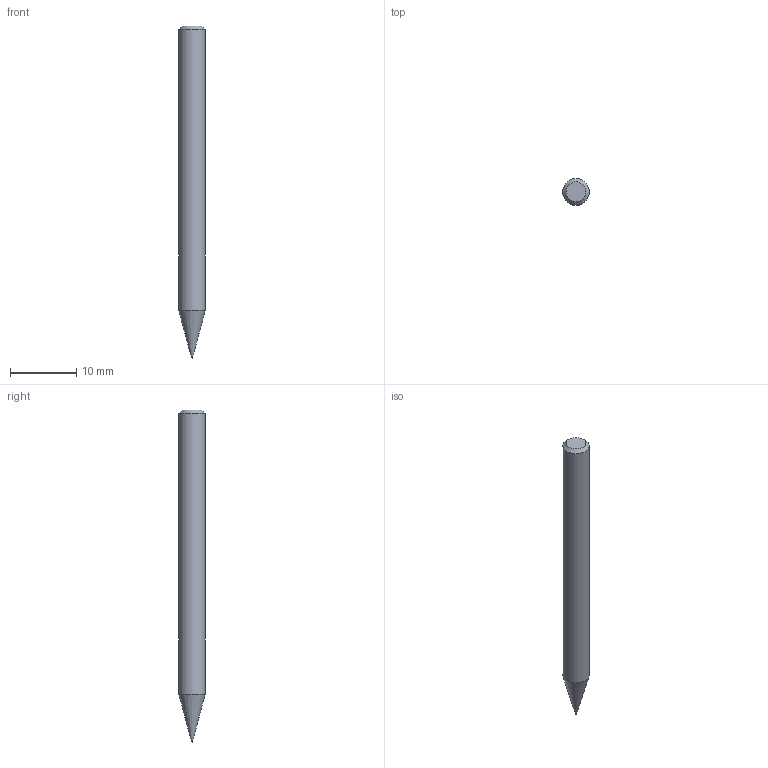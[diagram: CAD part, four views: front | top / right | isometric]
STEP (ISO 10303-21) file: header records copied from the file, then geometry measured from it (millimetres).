
FILE_DESCRIPTION((''),'2;1');
FILE_NAME('C:\Users\nsx150\AppData\Local\Temp\Mastercam 2021\J4S5TCIUH2\TEMP.step','2022-01-25T17:53:39',(''),(''),'STEP Write','Mastercam 2021 ... CNC Software, Inc.','');
FILE_SCHEMA(('AUTOMOTIVE_DESIGN'));
Length unit declared in the file: millimetre
Products named in the file (1): None
Bounding box: 4 x 4 x 50 mm (x, y, z)
Volume: 567.6 mm3; surface area: 595.1 mm2
Topology: 2 solids, 2 shells, 8 faces, 12 edges, 7 vertices
Faces by surface type: plane 3, cylinder 2, cone 2, sphere 1
Full cylindrical faces by diameter (mm): 0.3 x1, 4 x1
Entity records: 190 total; most frequent: DIRECTION 32, CARTESIAN_POINT 22, AXIS2_PLACEMENT_3D 16, ORIENTED_EDGE 12, EDGE_LOOP 12, STYLED_ITEM 11, ADVANCED_FACE 8, VERTEX_POINT 6
